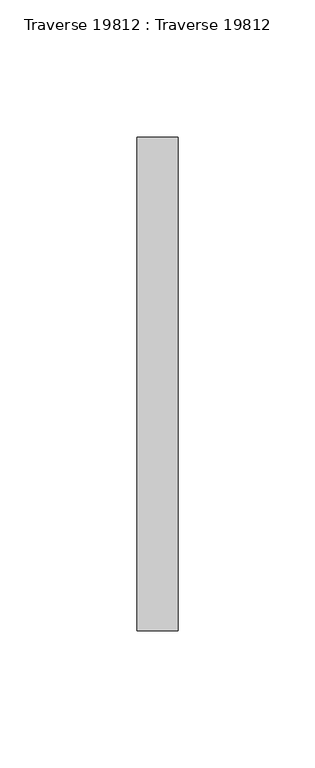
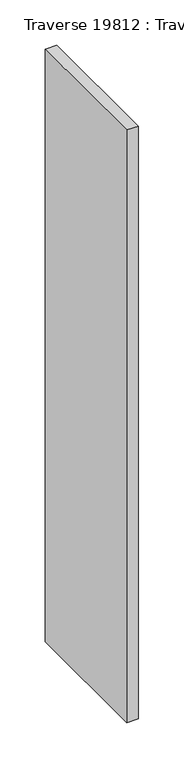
"""IFC4 building model written with IfcOpenShell, lengths in millimetres: beam geometry, Traverse 19812 : Traverse 19812."""

from ifc_helpers import new_model, si_unit, frame, origin, place, context, project, spatial, polyline, outline, extrude, source, transform, mapped, element, save


def traverse_19812_traverse_19812_90324377(model_context):
    return source(origin(), model_context, "Body", "SweptSolid", [
        extrude(outline(polyline([(0.0, -180.0), (0.0, 0.0), (15.0, 0.0), (15.0, -180.0), (0.0, -180.0)])), frame((195.3390307, -8690.0, 7226.5896904), z_axis=(-3.9221443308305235e-05, 0.0, 0.9999999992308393), x_axis=(-0.9999999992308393, 0.0, -3.9221443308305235e-05)), (0.0, 0.0, 1.0), 800.2870242),
    ])


if __name__ == "__main__":
    model = new_model("IFC4")
    model_context = context("Model", 3, world=origin())
    ifc_project = project(units=[si_unit("LENGTHUNIT", "METRE", prefix="MILLI")], contexts=[model_context])
    site = spatial("IfcSite", under=ifc_project)
    building = spatial("IfcBuilding", under=site)
    placement = place(None, origin())
    traverse_19812_traverse_19812_shape = traverse_19812_traverse_19812_90324377(model_context)
    element("IfcBeam", 1, ObjectType="Traverse 19812 : Traverse 19812", at=placement, inside=building, context=model_context, shape_type="MappedRepresentation", body=[
        mapped(traverse_19812_traverse_19812_shape, transform((0.0, 0.0, 0.0), x_axis=(1.0, 0.0, 0.0), y_axis=(0.0, 1.0, 0.0), z_axis=(0.0, 0.0, 1.0))),
    ])
    save(model, "model.ifc")
